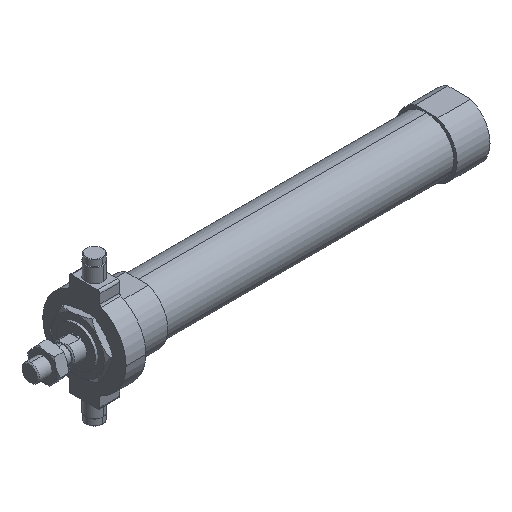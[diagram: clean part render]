
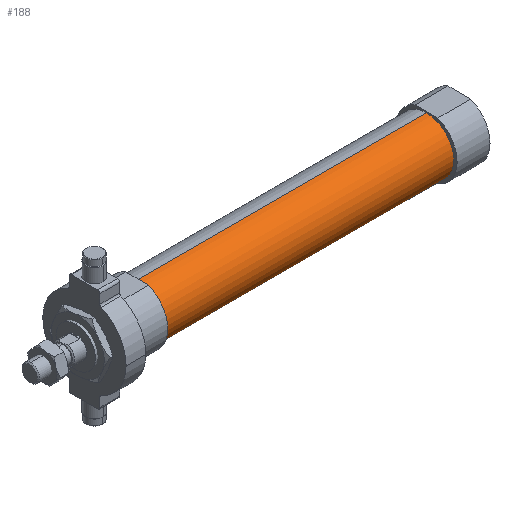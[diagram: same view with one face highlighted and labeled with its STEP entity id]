
A CAD part, isometric view. The second image highlights one B-rep face of the part: STEP entity #188.
In plain terms, the highlighted cylindrical face has radius 12.5 mm (diameter 25 mm), a partial arc.
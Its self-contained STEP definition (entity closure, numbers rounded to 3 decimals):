
#25 = CARTESIAN_POINT ( 'NONE',  ( 181., 0., 0. ) ) ;
#65 = DIRECTION ( 'NONE',  ( -1., 0., 0. ) ) ;
#105 = DIRECTION ( 'NONE',  ( 0., 0., 1. ) ) ;
#188 = ADVANCED_FACE ( 'NONE', ( #2355 ), #3817, .T. ) ;
#290 = CARTESIAN_POINT ( 'NONE',  ( 181., 0., -12.5 ) ) ;
#411 = ORIENTED_EDGE ( 'NONE', *, *, #1823, .T. ) ;
#506 = CARTESIAN_POINT ( 'NONE',  ( 49., 0., 0. ) ) ;
#572 = AXIS2_PLACEMENT_3D ( 'NONE', #506, #3669, #4009 ) ;
#682 = EDGE_CURVE ( 'NONE', #1058, #1782, #2682, .T. ) ;
#797 = LINE ( 'NONE', #1056, #3492 ) ;
#1016 = DIRECTION ( 'NONE',  ( 0., 0., 1. ) ) ;
#1056 = CARTESIAN_POINT ( 'NONE',  ( -6.469, 0., 12.5 ) ) ;
#1058 = VERTEX_POINT ( 'NONE', #290 ) ;
#1103 = DIRECTION ( 'NONE',  ( -1., 0., 0. ) ) ;
#1289 = VERTEX_POINT ( 'NONE', #3897 ) ;
#1318 = DIRECTION ( 'NONE',  ( -1., 0., 0. ) ) ;
#1484 = VECTOR ( 'NONE', #65, 1000. ) ;
#1782 = VERTEX_POINT ( 'NONE', #3597 ) ;
#1823 = EDGE_CURVE ( 'NONE', #1289, #3621, #797, .T. ) ;
#1891 = EDGE_CURVE ( 'NONE', #1782, #3621, #3133, .T. ) ;
#2355 = FACE_OUTER_BOUND ( 'NONE', #2668, .T. ) ;
#2668 = EDGE_LOOP ( 'NONE', ( #3852, #3738, #411, #3515 ) ) ;
#2682 = LINE ( 'NONE', #3316, #1484 ) ;
#2709 = AXIS2_PLACEMENT_3D ( 'NONE', #3965, #1103, #105 ) ;
#2734 = CIRCLE ( 'NONE', #3751, 12.5 ) ;
#3133 = CIRCLE ( 'NONE', #572, 12.5 ) ;
#3301 = DIRECTION ( 'NONE',  ( -1., 0., 0. ) ) ;
#3316 = CARTESIAN_POINT ( 'NONE',  ( -6.469, 0., -12.5 ) ) ;
#3492 = VECTOR ( 'NONE', #3301, 1000. ) ;
#3507 = CARTESIAN_POINT ( 'NONE',  ( 49., 0., 12.5 ) ) ;
#3515 = ORIENTED_EDGE ( 'NONE', *, *, #1891, .F. ) ;
#3597 = CARTESIAN_POINT ( 'NONE',  ( 49., 0., -12.5 ) ) ;
#3621 = VERTEX_POINT ( 'NONE', #3507 ) ;
#3669 = DIRECTION ( 'NONE',  ( -1., 0., 0. ) ) ;
#3738 = ORIENTED_EDGE ( 'NONE', *, *, #3844, .T. ) ;
#3751 = AXIS2_PLACEMENT_3D ( 'NONE', #25, #1318, #1016 ) ;
#3817 = CYLINDRICAL_SURFACE ( 'NONE', #2709, 12.5 ) ;
#3844 = EDGE_CURVE ( 'NONE', #1058, #1289, #2734, .T. ) ;
#3852 = ORIENTED_EDGE ( 'NONE', *, *, #682, .F. ) ;
#3897 = CARTESIAN_POINT ( 'NONE',  ( 181., 0., 12.5 ) ) ;
#3965 = CARTESIAN_POINT ( 'NONE',  ( -6.469, 0., 0. ) ) ;
#4009 = DIRECTION ( 'NONE',  ( 0., 0., 1. ) ) ;
